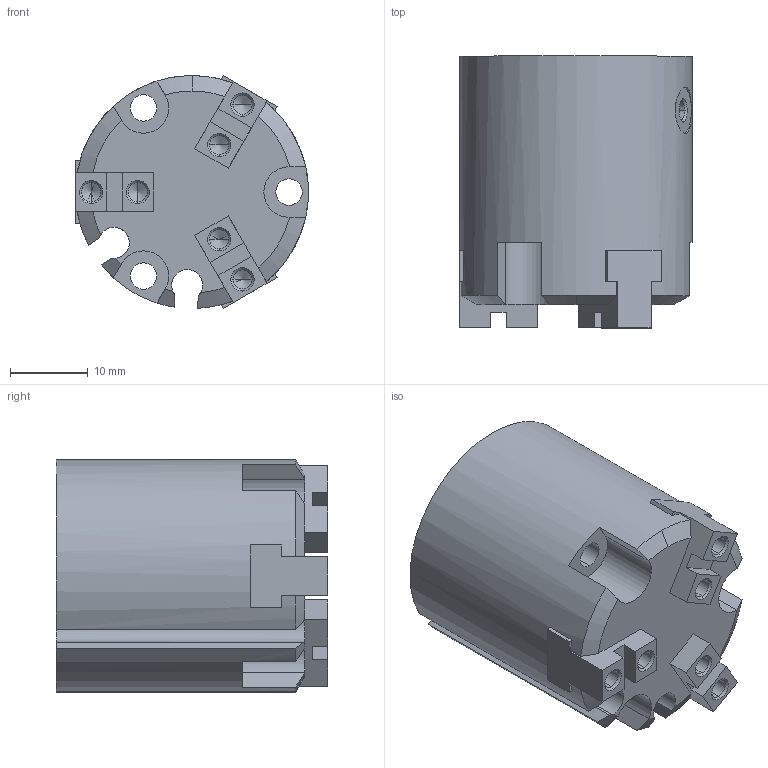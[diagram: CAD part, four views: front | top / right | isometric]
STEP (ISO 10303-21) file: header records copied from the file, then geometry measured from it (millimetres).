
FILE_DESCRIPTION (( 'STEP AP214' ), '1' );
FILE_NAME ('GMHS3-16D.STEP', '2019-11-12T01:21:41', ( '微软用户' ), ( '微软中国' ), 'SwSTEP 2.0', 'SolidWorks 2016', '' );
FILE_SCHEMA (( 'AUTOMOTIVE_DESIGN' ));
Length unit declared in the file: millimetre
Products named in the file (1): GMHS3-16D
Bounding box: 30 x 35 x 29.99 mm (x, y, z)
Surface area: 8448 mm2 (no closed solid volume)
Topology: 0 solids, 4 shells, 202 faces, 561 edges, 355 vertices
Faces by surface type: plane 94, cone 53, cylinder 49, bspline 6
Entity records: 6444 total; most frequent: CARTESIAN_POINT 1374, DIRECTION 1042, ORIENTED_EDGE 1018, EDGE_CURVE 539, VERTEX_POINT 355, LINE 348, VECTOR 348, AXIS2_PLACEMENT_3D 347
